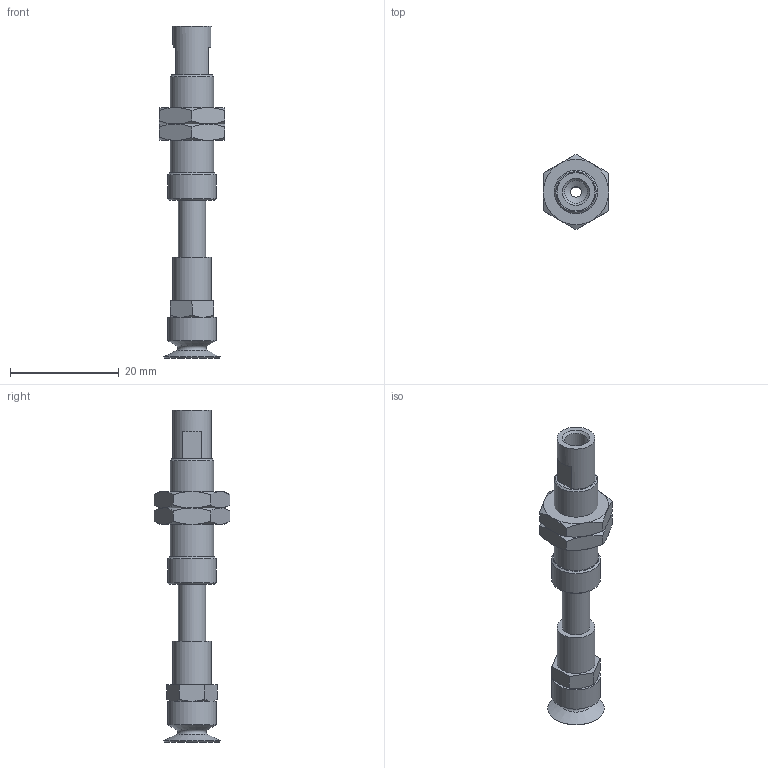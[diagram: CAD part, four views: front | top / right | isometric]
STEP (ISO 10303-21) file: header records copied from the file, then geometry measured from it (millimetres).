
FILE_DESCRIPTION(('STEP AP203'),'1');
FILE_NAME('-SPE.stp','2025-04-01T05:08:39',(' '),(' '),'Spatial InterOp 3D',' ',' ');
FILE_SCHEMA(('CONFIG_CONTROL_DESIGN'));
Length unit declared in the file: millimetre
Products named in the file (8): BNABPATS-10A-10-※-SPE; ZIG; BODY; NUT; TN-PS-10-M5; Setting screws-TN-PS-10-M5; BPAG-10A-※
Assembly tree (7 placements, depth 3):
  BNABPATS-10A-10-※-SPE
    ZIG
    BODY
    NUT
    NUT
    TN-PS-10-M5
      Setting screws-TN-PS-10-M5
    BPAG-10A-※
Bounding box: 12 x 13.86 x 61 mm (x, y, z)
Volume: 2704.5 mm3; surface area: 4019.3 mm2
Topology: 6 solids, 6 shells, 169 faces, 333 edges, 204 vertices
Faces by surface type: plane 74, cone 47, cylinder 39, torus 9
Full cylindrical faces by diameter (mm): 0.9 x16, 2 x3, 3.9 x1, 4 x4, 4.2 x2, 5 x3, 5.2 x1, 6 x2, 7 x2, 7.25 x2, 8 x1, 9 x2
Entity records: 4378 total; most frequent: CARTESIAN_POINT 810, DIRECTION 692, ORIENTED_EDGE 512, AXIS2_PLACEMENT_3D 318, EDGE_LOOP 274, EDGE_CURVE 256, FACE_OUTER_BOUND 217, VERTEX_POINT 192
